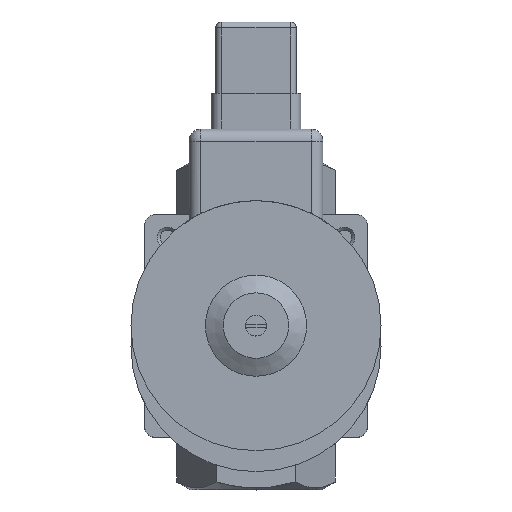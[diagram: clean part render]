
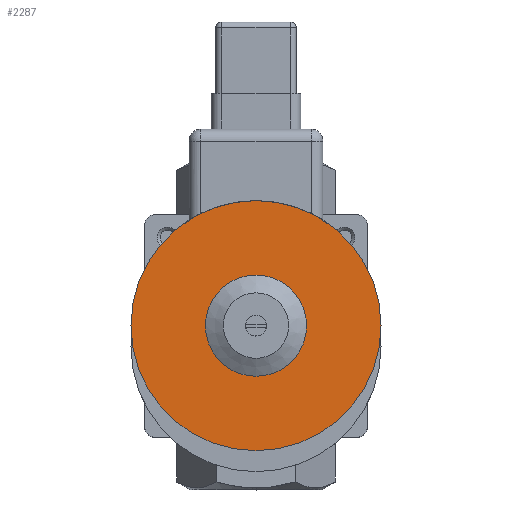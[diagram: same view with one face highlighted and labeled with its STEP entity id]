
A CAD part, top view. The second image highlights one B-rep face of the part: STEP entity #2287.
In plain terms, the highlighted planar face has unit normal (0, 0, 1).
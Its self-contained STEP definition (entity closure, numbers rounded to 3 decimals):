
#2287 = ADVANCED_FACE( '', ( #3766, #3767 ), #3768, .F. );
#3766 = FACE_BOUND( '', #7857, .T. );
#3767 = FACE_OUTER_BOUND( '', #7858, .T. );
#3768 = PLANE( '', #7859 );
#7857 = EDGE_LOOP( '', ( #11518 ) );
#7858 = EDGE_LOOP( '', ( #11519 ) );
#7859 = AXIS2_PLACEMENT_3D( '', #11520, #11521, #11522 );
#11518 = ORIENTED_EDGE( '', *, *, #12365, .T. );
#11519 = ORIENTED_EDGE( '', *, *, #12355, .F. );
#11520 = CARTESIAN_POINT( '', ( 0., -7., 60. ) );
#11521 = DIRECTION( '', ( 0., 0., -1. ) );
#11522 = DIRECTION( '', ( -1., 0., 0. ) );
#12355 = EDGE_CURVE( '', #13954, #13954, #13955, .T. );
#12365 = EDGE_CURVE( '', #13972, #13972, #13973, .T. );
#13954 = VERTEX_POINT( '', #17835 );
#13955 = CIRCLE( '', #17836, 42. );
#13972 = VERTEX_POINT( '', #17857 );
#13973 = CIRCLE( '', #17858, 13.75 );
#17835 = CARTESIAN_POINT( '', ( 0., 35., 60. ) );
#17836 = AXIS2_PLACEMENT_3D( '', #19700, #19701, #19702 );
#17857 = CARTESIAN_POINT( '', ( 0., 6.75, 60. ) );
#17858 = AXIS2_PLACEMENT_3D( '', #19722, #19723, #19724 );
#19700 = CARTESIAN_POINT( '', ( 0., -7., 60. ) );
#19701 = DIRECTION( '', ( 0., 0., -1. ) );
#19702 = DIRECTION( '', ( 0., 1., 0. ) );
#19722 = CARTESIAN_POINT( '', ( 0., -7., 60. ) );
#19723 = DIRECTION( '', ( 0., 0., -1. ) );
#19724 = DIRECTION( '', ( 0., 1., 0. ) );
